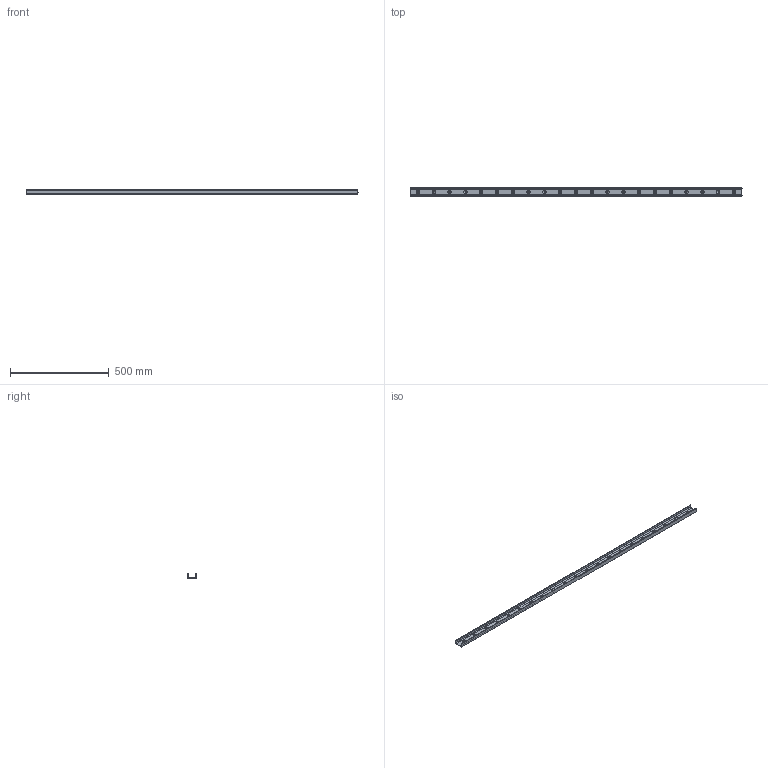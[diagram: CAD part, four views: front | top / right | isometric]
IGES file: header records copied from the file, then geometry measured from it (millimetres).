
Start section: SolidWorks IGES file using analytic representation for surfaces
Global section: file name: C:\Users\IanO\Desktop\43\L1943.ULV43_v2_20180121_IGES\L1943.ULV43-1680.igs; native system: SolidWorks 2017; preprocessor: SolidWorks 2017; author: IanO; date: 190121.090131; units: millimetre
Bounding box: 1680 x 43 x 21 mm (x, y, z)
Surface area: 260946.4 mm2 (no closed solid volume)
Topology: 0 solids, 0 shells, 110 faces, 1974 edges, 1974 vertices
Faces by surface type: revolution 97, bspline 13
